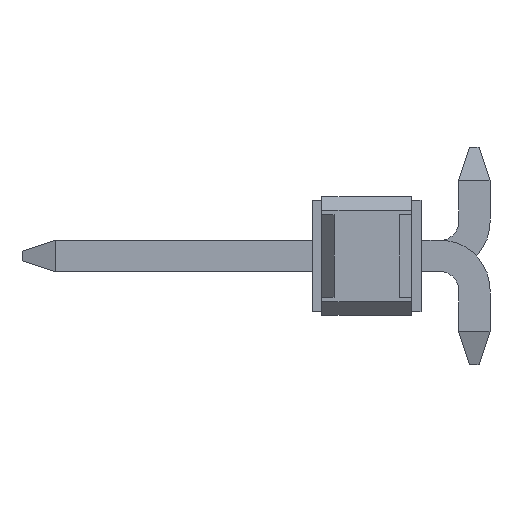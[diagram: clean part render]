
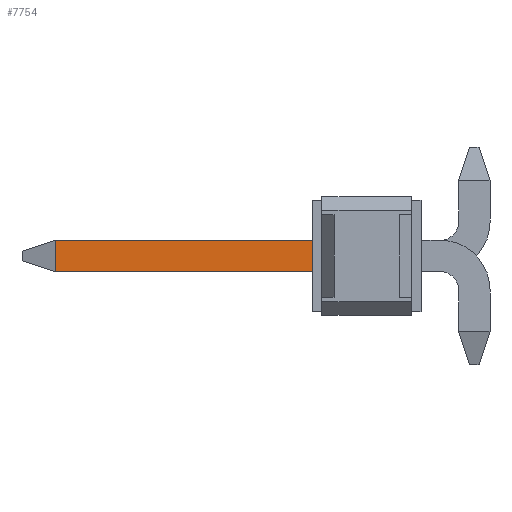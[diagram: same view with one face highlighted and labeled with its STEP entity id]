
A CAD part, left-side view. The second image highlights one B-rep face of the part: STEP entity #7754.
In plain terms, the highlighted planar face has unit normal (-1, 0, 0).
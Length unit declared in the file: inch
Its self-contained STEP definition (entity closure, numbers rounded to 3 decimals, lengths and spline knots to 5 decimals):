
#1429=DIRECTION('',(0.,0.,1.));
#1430=VECTOR('',#1429,0.026);
#1431=CARTESIAN_POINT('',(-0.21305,0.037,-0.013));
#1432=LINE('',#1431,#1430);
#2433=DIRECTION('',(0.,0.,-1.));
#2434=VECTOR('',#2433,0.026);
#2435=CARTESIAN_POINT('',(-0.21305,0.2573,0.013));
#2436=LINE('',#2435,#2434);
#2437=DIRECTION('',(0.,-1.,0.));
#2438=VECTOR('',#2437,0.2203);
#2439=CARTESIAN_POINT('',(-0.21305,0.2573,0.013));
#2440=LINE('',#2439,#2438);
#2441=DIRECTION('',(0.,1.,0.));
#2442=VECTOR('',#2441,0.2203);
#2443=CARTESIAN_POINT('',(-0.21305,0.037,-0.013));
#2444=LINE('',#2443,#2442);
#3637=CARTESIAN_POINT('',(-0.21305,0.037,-0.013));
#3638=CARTESIAN_POINT('',(-0.21305,0.037,0.013));
#3639=VERTEX_POINT('',#3637);
#3640=VERTEX_POINT('',#3638);
#3793=CARTESIAN_POINT('',(-0.21305,0.2573,0.013));
#3794=CARTESIAN_POINT('',(-0.21305,0.2573,-0.013));
#3795=VERTEX_POINT('',#3793);
#3796=VERTEX_POINT('',#3794);
#7740=CARTESIAN_POINT('',(-0.21305,0.,0.));
#7741=DIRECTION('',(1.,0.,0.));
#7742=DIRECTION('',(0.,0.,-1.));
#7743=AXIS2_PLACEMENT_3D('',#7740,#7741,#7742);
#7744=PLANE('',#7743);
#7746=ORIENTED_EDGE('',*,*,#7745,.F.);
#7748=ORIENTED_EDGE('',*,*,#7747,.T.);
#7749=ORIENTED_EDGE('',*,*,#6152,.F.);
#7751=ORIENTED_EDGE('',*,*,#7750,.T.);
#7752=EDGE_LOOP('',(#7746,#7748,#7749,#7751));
#7753=FACE_OUTER_BOUND('',#7752,.F.);
#7754=ADVANCED_FACE('',(#7753),#7744,.F.);
#6152=EDGE_CURVE('',#3639,#3640,#1432,.T.);
#7745=EDGE_CURVE('',#3795,#3796,#2436,.T.);
#7747=EDGE_CURVE('',#3795,#3640,#2440,.T.);
#7750=EDGE_CURVE('',#3639,#3796,#2444,.T.);
